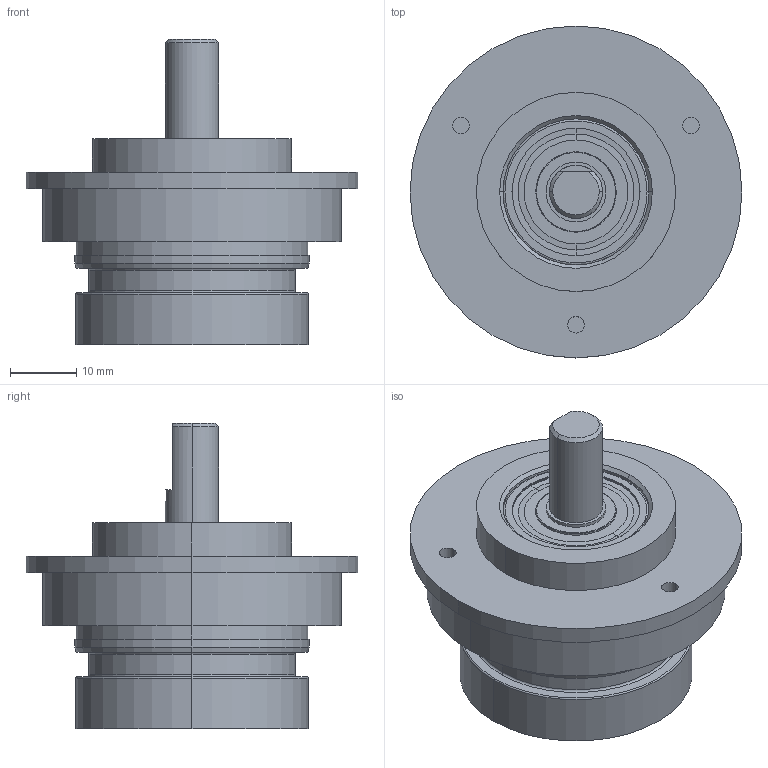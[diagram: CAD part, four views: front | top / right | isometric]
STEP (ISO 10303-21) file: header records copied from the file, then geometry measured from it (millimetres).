
FILE_DESCRIPTION (( 'STEP AP203' ), '1' );
FILE_NAME ('UCD-05M0-Q3A-N.STEP', '2015-05-19T07:29:40', ( '' ), ( '' ), 'SwSTEP 2.0', 'SolidWorks 2015', '' );
FILE_SCHEMA (( 'CONFIG_CONTROL_DESIGN' ));
Length unit declared in the file: millimetre
Products named in the file (1): UCD-05M0-Q3A-N
Bounding box: 50 x 50 x 46 mm (x, y, z)
Surface area: 11522.8 mm2 (no closed solid volume)
Topology: 0 solids, 10 shells, 110 faces, 247 edges, 156 vertices
Faces by surface type: cylinder 46, plane 21, cone 19, bspline 18, torus 6
Entity records: 3808 total; most frequent: CARTESIAN_POINT 1250, DIRECTION 584, ORIENTED_EDGE 450, AXIS2_PLACEMENT_3D 258, EDGE_CURVE 247, CIRCLE 165, VERTEX_POINT 156, EDGE_LOOP 131
